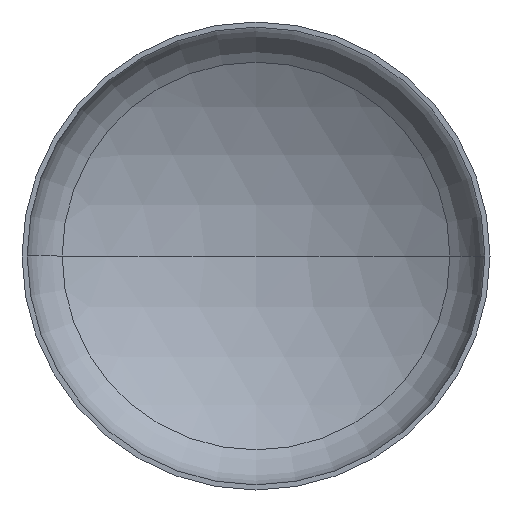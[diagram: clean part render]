
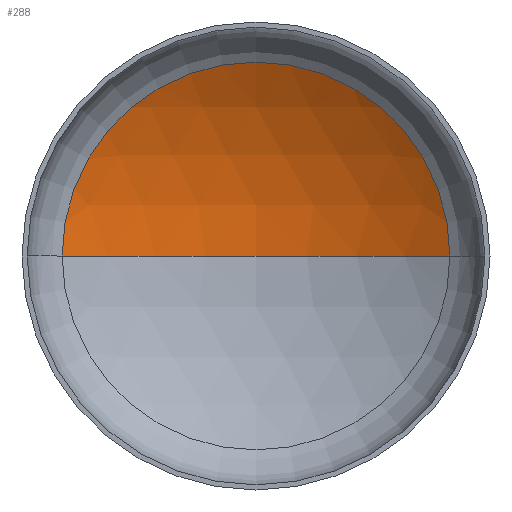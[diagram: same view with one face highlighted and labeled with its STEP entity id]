
A CAD part, front view. The second image highlights one B-rep face of the part: STEP entity #288.
In plain terms, the highlighted spherical face has radius 1600 mm.
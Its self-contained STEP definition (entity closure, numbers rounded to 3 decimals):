
#24 = VERTEX_POINT ( 'NONE', #279 ) ;
#40 = AXIS2_PLACEMENT_3D ( 'NONE', #272, #380, #143 ) ;
#42 = VERTEX_POINT ( 'NONE', #246 ) ;
#45 = CIRCLE ( 'NONE', #65, 1600. ) ;
#54 = ORIENTED_EDGE ( 'NONE', *, *, #154, .T. ) ;
#57 = DIRECTION ( 'NONE',  ( 0., 0., -1. ) ) ;
#65 = AXIS2_PLACEMENT_3D ( 'NONE', #333, #189, #359 ) ;
#69 = EDGE_LOOP ( 'NONE', ( #98, #54, #86 ) ) ;
#70 = AXIS2_PLACEMENT_3D ( 'NONE', #268, #57, #292 ) ;
#72 = AXIS2_PLACEMENT_3D ( 'NONE', #358, #217, #378 ) ;
#86 = ORIENTED_EDGE ( 'NONE', *, *, #153, .T. ) ;
#98 = ORIENTED_EDGE ( 'NONE', *, *, #157, .F. ) ;
#143 = DIRECTION ( 'NONE',  ( -1., 0., 0. ) ) ;
#153 = EDGE_CURVE ( 'NONE', #394, #24, #305, .T. ) ;
#154 = EDGE_CURVE ( 'NONE', #42, #394, #251, .T. ) ;
#157 = EDGE_CURVE ( 'NONE', #42, #24, #45, .T. ) ;
#173 = CARTESIAN_POINT ( 'NONE',  ( 828.527, 335.2, 0. ) ) ;
#189 = DIRECTION ( 'NONE',  ( 0., 0., 1. ) ) ;
#217 = DIRECTION ( 'NONE',  ( 0., -1., 0. ) ) ;
#240 = FACE_OUTER_BOUND ( 'NONE', #69, .T. ) ;
#246 = CARTESIAN_POINT ( 'NONE',  ( 0., 566.426, 0. ) ) ;
#251 = CIRCLE ( 'NONE', #70, 1600. ) ;
#268 = CARTESIAN_POINT ( 'NONE',  ( 0., -1033.574, 0. ) ) ;
#272 = CARTESIAN_POINT ( 'NONE',  ( 0., -1033.574, 0. ) ) ;
#279 = CARTESIAN_POINT ( 'NONE',  ( -828.527, 335.2, 0. ) ) ;
#288 = ADVANCED_FACE ( 'NONE', ( #240 ), #407, .F. ) ;
#292 = DIRECTION ( 'NONE',  ( -1., 0., 0. ) ) ;
#305 = CIRCLE ( 'NONE', #72, 828.527 ) ;
#333 = CARTESIAN_POINT ( 'NONE',  ( 0., -1033.574, 0. ) ) ;
#358 = CARTESIAN_POINT ( 'NONE',  ( 0., 335.2, 0. ) ) ;
#359 = DIRECTION ( 'NONE',  ( 1., 0., 0. ) ) ;
#378 = DIRECTION ( 'NONE',  ( 1., 0., 0. ) ) ;
#380 = DIRECTION ( 'NONE',  ( 0., 0., -1. ) ) ;
#394 = VERTEX_POINT ( 'NONE', #173 ) ;
#407 = SPHERICAL_SURFACE ( 'NONE', #40, 1600. ) ;
